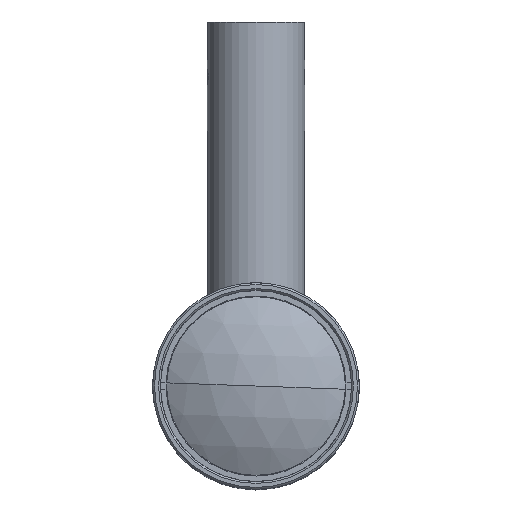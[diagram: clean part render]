
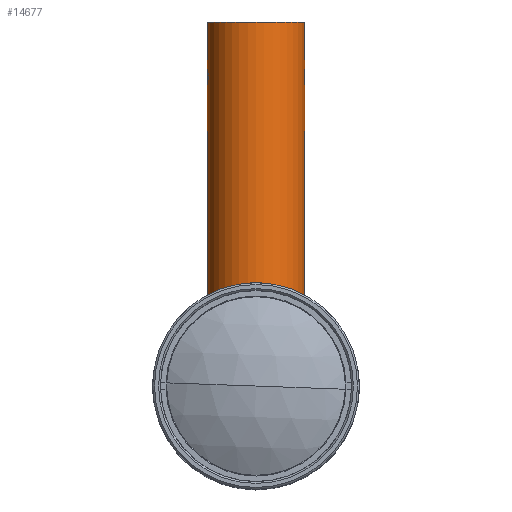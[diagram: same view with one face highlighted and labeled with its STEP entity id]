
A CAD part, top view. The second image highlights one B-rep face of the part: STEP entity #14677.
In plain terms, the highlighted cylindrical face has radius 8 mm (diameter 16 mm), a partial arc.
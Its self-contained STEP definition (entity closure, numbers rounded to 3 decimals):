
#44 = DIRECTION ( 'NONE',  ( 0., -1., 0. ) ) ;
#386 = CARTESIAN_POINT ( 'NONE',  ( -7.995, 52.217, -24.302 ) ) ;
#463 = CARTESIAN_POINT ( 'NONE',  ( -8., 49.75, -24.465 ) ) ;
#529 = EDGE_CURVE ( 'NONE', #536, #9311, #7636, .T. ) ;
#536 = VERTEX_POINT ( 'NONE', #7781 ) ;
#612 = ORIENTED_EDGE ( 'NONE', *, *, #529, .T. ) ;
#627 = CARTESIAN_POINT ( 'NONE',  ( -7.902, 51.166, -23.38 ) ) ;
#795 = CARTESIAN_POINT ( 'NONE',  ( -8., 12.5, -24.63 ) ) ;
#831 = CARTESIAN_POINT ( 'NONE',  ( 8., 49.75, -24.63 ) ) ;
#1214 = DIRECTION ( 'NONE',  ( 0., -1., 0. ) ) ;
#1307 = ORIENTED_EDGE ( 'NONE', *, *, #15445, .F. ) ;
#1400 = B_SPLINE_CURVE_WITH_KNOTS ( 'NONE', 3,
 ( #14267, #11873, #386, #13026, #4237, #13109, #3171, #4160, #6714, #13186, #627, #8183, #3090, #1949, #7948, #2930, #3010, #5642, #463, #1627 ),
 .UNSPECIFIED., .F., .F.,
 ( 4, 2, 2, 2, 2, 2, 2, 2, 2, 4 ),
 ( 0.004, 0.004, 0.005, 0.005, 0.005, 0.006, 0.006, 0.007, 0.007, 0.008 ),
 .UNSPECIFIED. ) ;
#1463 = DIRECTION ( 'NONE',  ( 0., -1., 0. ) ) ;
#1607 = CARTESIAN_POINT ( 'NONE',  ( 8., 52.25, -24.465 ) ) ;
#1627 = CARTESIAN_POINT ( 'NONE',  ( -8., 49.75, -24.63 ) ) ;
#1686 = CARTESIAN_POINT ( 'NONE',  ( 7.902, 51.164, -23.38 ) ) ;
#1949 = CARTESIAN_POINT ( 'NONE',  ( -7.925, 50.371, -23.538 ) ) ;
#2553 = CYLINDRICAL_SURFACE ( 'NONE', #8865, 8. ) ;
#2574 = EDGE_CURVE ( 'NONE', #11650, #15667, #11238, .T. ) ;
#2826 = CARTESIAN_POINT ( 'NONE',  ( 7.964, 51.998, -23.86 ) ) ;
#2877 = VECTOR ( 'NONE', #5437, 1000. ) ;
#2907 = CARTESIAN_POINT ( 'NONE',  ( 7.907, 51.327, -23.412 ) ) ;
#2930 = CARTESIAN_POINT ( 'NONE',  ( -7.964, 50.002, -23.86 ) ) ;
#3010 = CARTESIAN_POINT ( 'NONE',  ( -7.977, 49.908, -24. ) ) ;
#3090 = CARTESIAN_POINT ( 'NONE',  ( -7.907, 50.673, -23.412 ) ) ;
#3171 = CARTESIAN_POINT ( 'NONE',  ( -7.938, 51.763, -23.636 ) ) ;
#3633 = EDGE_CURVE ( 'NONE', #13150, #9311, #7185, .T. ) ;
#3720 = DIRECTION ( 'NONE',  ( 0., -1., 0. ) ) ;
#3812 = ORIENTED_EDGE ( 'NONE', *, *, #3633, .F. ) ;
#4160 = CARTESIAN_POINT ( 'NONE',  ( -7.926, 51.627, -23.546 ) ) ;
#4177 = DIRECTION ( 'NONE',  ( 1., 0., 0. ) ) ;
#4237 = CARTESIAN_POINT ( 'NONE',  ( -7.964, 52., -23.862 ) ) ;
#4378 = EDGE_CURVE ( 'NONE', #6421, #13150, #5875, .T. ) ;
#4607 = CARTESIAN_POINT ( 'NONE',  ( 8., 52.25, -24.63 ) ) ;
#4886 = LINE ( 'NONE', #6202, #8348 ) ;
#5097 = CARTESIAN_POINT ( 'NONE',  ( 0., 10., -24.63 ) ) ;
#5364 = EDGE_LOOP ( 'NONE', ( #5970, #13686, #12355, #612, #3812, #9596, #13647, #1307 ) ) ;
#5373 = CARTESIAN_POINT ( 'NONE',  ( -8., 52.25, -24.63 ) ) ;
#5437 = DIRECTION ( 'NONE',  ( 0., -1., 0. ) ) ;
#5535 = CARTESIAN_POINT ( 'NONE',  ( 7.945, 50.173, -23.689 ) ) ;
#5642 = CARTESIAN_POINT ( 'NONE',  ( -7.995, 49.783, -24.3 ) ) ;
#5868 = VECTOR ( 'NONE', #1463, 1000. ) ;
#5875 = LINE ( 'NONE', #11184, #11087 ) ;
#5970 = ORIENTED_EDGE ( 'NONE', *, *, #2574, .T. ) ;
#6165 = FACE_OUTER_BOUND ( 'NONE', #5364, .T. ) ;
#6202 = CARTESIAN_POINT ( 'NONE',  ( 8., 10., -24.63 ) ) ;
#6421 = VERTEX_POINT ( 'NONE', #9608 ) ;
#6714 = CARTESIAN_POINT ( 'NONE',  ( -7.921, 51.555, -23.507 ) ) ;
#6770 = CARTESIAN_POINT ( 'NONE',  ( 7.938, 50.237, -23.636 ) ) ;
#6929 = VERTEX_POINT ( 'NONE', #14578 ) ;
#7167 = CARTESIAN_POINT ( 'NONE',  ( 7.964, 50., -23.862 ) ) ;
#7185 = CIRCLE ( 'NONE', #12949, 8. ) ;
#7636 = LINE ( 'NONE', #8839, #5868 ) ;
#7781 = CARTESIAN_POINT ( 'NONE',  ( -8., 49.75, -24.63 ) ) ;
#7848 = CARTESIAN_POINT ( 'NONE',  ( 7.977, 52.092, -24. ) ) ;
#7948 = CARTESIAN_POINT ( 'NONE',  ( -7.938, 50.232, -23.631 ) ) ;
#8183 = CARTESIAN_POINT ( 'NONE',  ( -7.902, 50.836, -23.38 ) ) ;
#8348 = VECTOR ( 'NONE', #44, 1000. ) ;
#8376 = VERTEX_POINT ( 'NONE', #5373 ) ;
#8839 = CARTESIAN_POINT ( 'NONE',  ( -8., 10., -24.63 ) ) ;
#8865 = AXIS2_PLACEMENT_3D ( 'NONE', #5097, #12565, #16186 ) ;
#9061 = CARTESIAN_POINT ( 'NONE',  ( 8., 49.75, -24.467 ) ) ;
#9311 = VERTEX_POINT ( 'NONE', #795 ) ;
#9596 = ORIENTED_EDGE ( 'NONE', *, *, #4378, .F. ) ;
#9608 = CARTESIAN_POINT ( 'NONE',  ( 8., 49.75, -24.63 ) ) ;
#10373 = CARTESIAN_POINT ( 'NONE',  ( 7.925, 51.629, -23.538 ) ) ;
#10456 = CARTESIAN_POINT ( 'NONE',  ( 7.995, 52.217, -24.3 ) ) ;
#10499 = DIRECTION ( 'NONE',  ( 0., -1., 0. ) ) ;
#10673 = EDGE_CURVE ( 'NONE', #8376, #536, #1400, .T. ) ;
#10771 = CARTESIAN_POINT ( 'NONE',  ( 7.902, 50.834, -23.38 ) ) ;
#10849 = CARTESIAN_POINT ( 'NONE',  ( 7.921, 50.445, -23.507 ) ) ;
#11087 = VECTOR ( 'NONE', #3720, 1000. ) ;
#11105 = EDGE_CURVE ( 'NONE', #6421, #6929, #11999, .T. ) ;
#11184 = CARTESIAN_POINT ( 'NONE',  ( 8., 10., -24.63 ) ) ;
#11238 = CIRCLE ( 'NONE', #13328, 8. ) ;
#11611 = CARTESIAN_POINT ( 'NONE',  ( 7.977, 49.907, -24.001 ) ) ;
#11650 = VERTEX_POINT ( 'NONE', #12708 ) ;
#11653 = CARTESIAN_POINT ( 'NONE',  ( 0., 12.5, -24.63 ) ) ;
#11841 = CARTESIAN_POINT ( 'NONE',  ( -8., 10., -24.63 ) ) ;
#11873 = CARTESIAN_POINT ( 'NONE',  ( -8., 52.25, -24.467 ) ) ;
#11999 = B_SPLINE_CURVE_WITH_KNOTS ( 'NONE', 3,
 ( #831, #9061, #15786, #11611, #7167, #5535, #6770, #15480, #10849, #14072, #10771, #1686, #2907, #10373, #12920, #2826, #7848, #10456, #1607, #4607 ),
 .UNSPECIFIED., .F., .F.,
 ( 4, 2, 2, 2, 2, 2, 2, 2, 2, 4 ),
 ( 0.004, 0.004, 0.005, 0.005, 0.005, 0.006, 0.006, 0.007, 0.007, 0.008 ),
 .UNSPECIFIED. ) ;
#12355 = ORIENTED_EDGE ( 'NONE', *, *, #10673, .T. ) ;
#12565 = DIRECTION ( 'NONE',  ( 0., -1., 0. ) ) ;
#12708 = CARTESIAN_POINT ( 'NONE',  ( 8., 60., -24.63 ) ) ;
#12920 = CARTESIAN_POINT ( 'NONE',  ( 7.938, 51.768, -23.631 ) ) ;
#12949 = AXIS2_PLACEMENT_3D ( 'NONE', #11653, #10499, #4177 ) ;
#13026 = CARTESIAN_POINT ( 'NONE',  ( -7.977, 52.093, -24.001 ) ) ;
#13109 = CARTESIAN_POINT ( 'NONE',  ( -7.945, 51.827, -23.689 ) ) ;
#13150 = VERTEX_POINT ( 'NONE', #15398 ) ;
#13159 = CARTESIAN_POINT ( 'NONE',  ( -8., 60., -24.63 ) ) ;
#13186 = CARTESIAN_POINT ( 'NONE',  ( -7.907, 51.328, -23.413 ) ) ;
#13328 = AXIS2_PLACEMENT_3D ( 'NONE', #16075, #1214, #15014 ) ;
#13587 = EDGE_CURVE ( 'NONE', #15667, #8376, #15544, .T. ) ;
#13647 = ORIENTED_EDGE ( 'NONE', *, *, #11105, .T. ) ;
#13686 = ORIENTED_EDGE ( 'NONE', *, *, #13587, .T. ) ;
#14072 = CARTESIAN_POINT ( 'NONE',  ( 7.907, 50.672, -23.413 ) ) ;
#14267 = CARTESIAN_POINT ( 'NONE',  ( -8., 52.25, -24.63 ) ) ;
#14578 = CARTESIAN_POINT ( 'NONE',  ( 8., 52.25, -24.63 ) ) ;
#14677 = ADVANCED_FACE ( 'NONE', ( #6165 ), #2553, .T. ) ;
#15014 = DIRECTION ( 'NONE',  ( 1., 0., 0. ) ) ;
#15398 = CARTESIAN_POINT ( 'NONE',  ( 8., 12.5, -24.63 ) ) ;
#15445 = EDGE_CURVE ( 'NONE', #11650, #6929, #4886, .T. ) ;
#15480 = CARTESIAN_POINT ( 'NONE',  ( 7.926, 50.373, -23.546 ) ) ;
#15544 = LINE ( 'NONE', #11841, #2877 ) ;
#15667 = VERTEX_POINT ( 'NONE', #13159 ) ;
#15786 = CARTESIAN_POINT ( 'NONE',  ( 7.995, 49.783, -24.302 ) ) ;
#16075 = CARTESIAN_POINT ( 'NONE',  ( 0., 60., -24.63 ) ) ;
#16186 = DIRECTION ( 'NONE',  ( 1., 0., 0. ) ) ;
